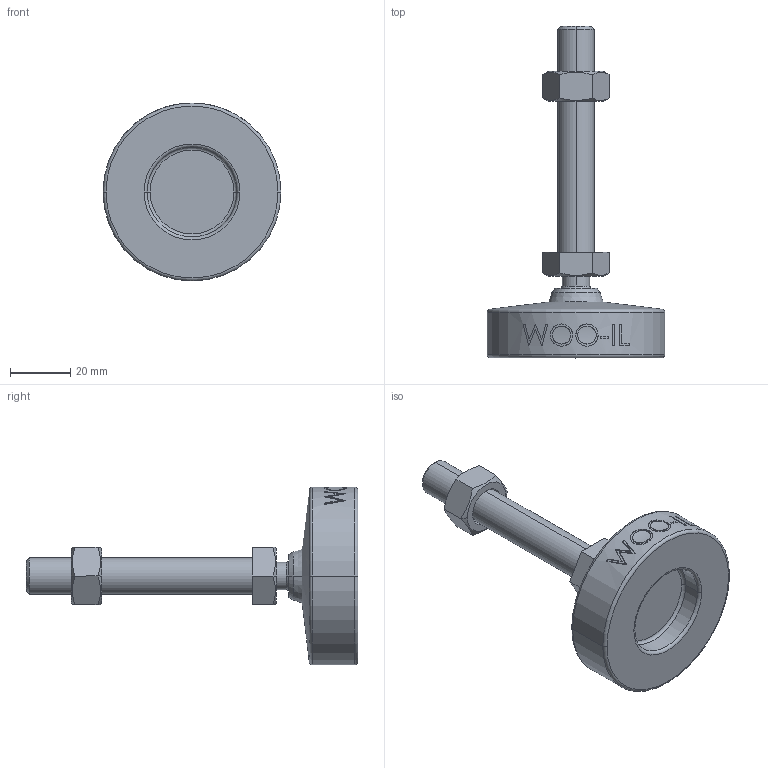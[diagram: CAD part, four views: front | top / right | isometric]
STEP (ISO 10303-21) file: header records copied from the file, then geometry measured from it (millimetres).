
FILE_DESCRIPTION (( 'STEP AP214' ), '1' );
FILE_NAME ('MFN59-M12-75.step', '2021-01-19T06:28:33', ( '' ), ( '' ), 'SwSTEP 2.0', 'SolidWorks 2019', '' );
FILE_SCHEMA (( 'AUTOMOTIVE_DESIGN' ));
Length unit declared in the file: millimetre
Products named in the file (2): MFN59-M12-75
Bounding box: 59 x 110 x 59 mm (x, y, z)
Volume: 55711.7 mm3; surface area: 14378.6 mm2
Topology: 2 solids, 2 shells, 109 faces, 253 edges, 160 vertices
Faces by surface type: plane 47, cone 18, cylinder 18, bspline 16, torus 8, sphere 2
Entity records: 4619 total; most frequent: CARTESIAN_POINT 2194, ORIENTED_EDGE 506, DIRECTION 461, EDGE_CURVE 253, AXIS2_PLACEMENT_3D 179, VERTEX_POINT 160, EDGE_LOOP 123, FACE_OUTER_BOUND 109
